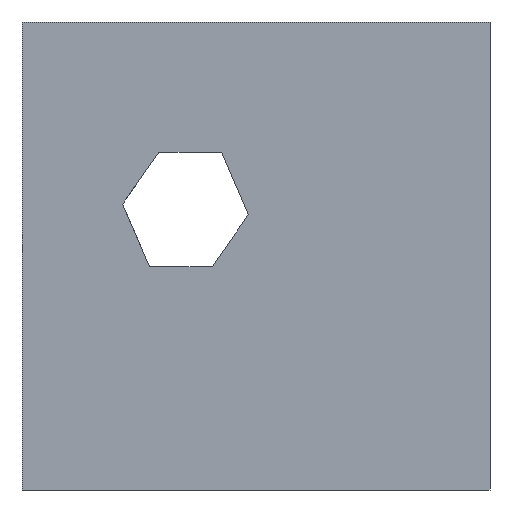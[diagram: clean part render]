
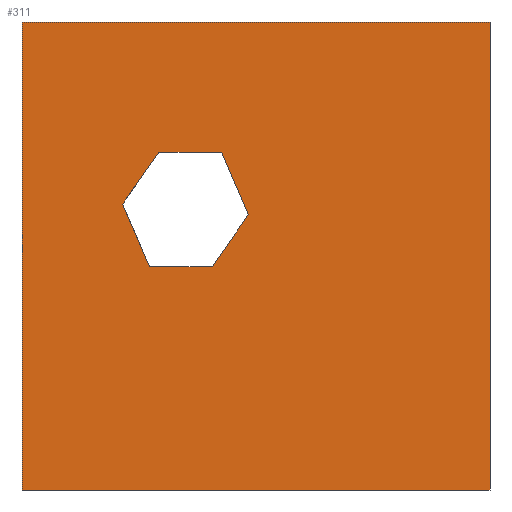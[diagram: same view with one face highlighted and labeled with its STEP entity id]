
A CAD part, front view. The second image highlights one B-rep face of the part: STEP entity #311.
In plain terms, the highlighted planar face has unit normal (0, -1, 0).
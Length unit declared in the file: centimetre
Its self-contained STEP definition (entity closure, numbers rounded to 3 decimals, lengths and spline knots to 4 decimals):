
#3 = VERTEX_POINT ( 'NONE', #155 ) ;
#6 = CARTESIAN_POINT ( 'NONE',  ( 215.0647, 0., 611.0145 ) ) ;
#8 = EDGE_CURVE ( 'NONE', #49, #16, #540, .T. ) ;
#13 = ORIENTED_EDGE ( 'NONE', *, *, #8, .T. ) ;
#16 = VERTEX_POINT ( 'NONE', #304 ) ;
#20 = VERTEX_POINT ( 'NONE', #384 ) ;
#23 = CARTESIAN_POINT ( 'NONE',  ( 215.0647, 0., 611.0145 ) ) ;
#24 = DIRECTION ( 'NONE',  ( -1., 0., 0. ) ) ;
#25 = DIRECTION ( 'NONE',  ( 0., 1., 0. ) ) ;
#32 = CARTESIAN_POINT ( 'NONE',  ( 1000., 0., 1000. ) ) ;
#37 = VECTOR ( 'NONE', #496, 100. ) ;
#49 = VERTEX_POINT ( 'NONE', #501 ) ;
#54 = EDGE_CURVE ( 'NONE', #549, #394, #98, .T. ) ;
#55 = CARTESIAN_POINT ( 'NONE',  ( 292.1432, 0., 721.6244 ) ) ;
#58 = CARTESIAN_POINT ( 'NONE',  ( 0., 0., 1000. ) ) ;
#68 = ORIENTED_EDGE ( 'NONE', *, *, #54, .F. ) ;
#71 = EDGE_CURVE ( 'NONE', #344, #49, #245, .T. ) ;
#94 = ORIENTED_EDGE ( 'NONE', *, *, #485, .T. ) ;
#98 = LINE ( 'NONE', #58, #554 ) ;
#102 = CARTESIAN_POINT ( 'NONE',  ( 0., 0., 1000. ) ) ;
#107 = VECTOR ( 'NONE', #24, 100. ) ;
#113 = CARTESIAN_POINT ( 'NONE',  ( 0., 0., 0. ) ) ;
#114 = EDGE_CURVE ( 'NONE', #226, #3, #512, .T. ) ;
#119 = DIRECTION ( 'NONE',  ( 1., 0., 0. ) ) ;
#122 = VECTOR ( 'NONE', #119, 100. ) ;
#132 = CARTESIAN_POINT ( 'NONE',  ( 0., 0., 1000. ) ) ;
#133 = CARTESIAN_POINT ( 'NONE',  ( 1000., 0., 0. ) ) ;
#154 = EDGE_CURVE ( 'NONE', #549, #446, #170, .T. ) ;
#155 = CARTESIAN_POINT ( 'NONE',  ( 406.6467, 0., 477.5105 ) ) ;
#162 = LINE ( 'NONE', #551, #403 ) ;
#170 = LINE ( 'NONE', #132, #212 ) ;
#204 = ORIENTED_EDGE ( 'NONE', *, *, #154, .T. ) ;
#212 = VECTOR ( 'NONE', #378, 100. ) ;
#219 = CARTESIAN_POINT ( 'NONE',  ( 483.7252, 0., 588.1204 ) ) ;
#226 = VERTEX_POINT ( 'NONE', #219 ) ;
#245 = LINE ( 'NONE', #6, #411 ) ;
#251 = EDGE_LOOP ( 'NONE', ( #13, #395, #499, #542, #94, #490 ) ) ;
#259 = CARTESIAN_POINT ( 'NONE',  ( 406.6467, 0., 477.5105 ) ) ;
#264 = VECTOR ( 'NONE', #533, 100. ) ;
#267 = FACE_BOUND ( 'NONE', #251, .T. ) ;
#300 = CARTESIAN_POINT ( 'NONE',  ( 1000., 0., 1000. ) ) ;
#301 = DIRECTION ( 'NONE',  ( 0.572, 0., 0.82 ) ) ;
#304 = CARTESIAN_POINT ( 'NONE',  ( 426.4735, 0., 721.6244 ) ) ;
#311 = ADVANCED_FACE ( 'NONE', ( #267, #392 ), #505, .F. ) ;
#319 = EDGE_CURVE ( 'NONE', #394, #401, #556, .T. ) ;
#328 = CARTESIAN_POINT ( 'NONE',  ( 483.7252, 0., 588.1204 ) ) ;
#344 = VERTEX_POINT ( 'NONE', #23 ) ;
#378 = DIRECTION ( 'NONE',  ( 0., 0., -1. ) ) ;
#384 = CARTESIAN_POINT ( 'NONE',  ( 272.3164, 0., 477.5105 ) ) ;
#392 = FACE_OUTER_BOUND ( 'NONE', #517, .T. ) ;
#394 = VERTEX_POINT ( 'NONE', #32 ) ;
#395 = ORIENTED_EDGE ( 'NONE', *, *, #397, .T. ) ;
#397 = EDGE_CURVE ( 'NONE', #16, #226, #416, .T. ) ;
#401 = VERTEX_POINT ( 'NONE', #133 ) ;
#402 = VECTOR ( 'NONE', #619, 100. ) ;
#403 = VECTOR ( 'NONE', #608, 100. ) ;
#411 = VECTOR ( 'NONE', #301, 100. ) ;
#416 = LINE ( 'NONE', #420, #402 ) ;
#417 = CARTESIAN_POINT ( 'NONE',  ( 0., 0., 1000. ) ) ;
#420 = CARTESIAN_POINT ( 'NONE',  ( 426.4735, 0., 721.6244 ) ) ;
#446 = VERTEX_POINT ( 'NONE', #524 ) ;
#447 = DIRECTION ( 'NONE',  ( 1., 0., 0. ) ) ;
#457 = AXIS2_PLACEMENT_3D ( 'NONE', #102, #25, #534 ) ;
#460 = LINE ( 'NONE', #259, #107 ) ;
#485 = EDGE_CURVE ( 'NONE', #20, #344, #162, .T. ) ;
#488 = VECTOR ( 'NONE', #559, 100. ) ;
#490 = ORIENTED_EDGE ( 'NONE', *, *, #71, .T. ) ;
#495 = EDGE_CURVE ( 'NONE', #446, #401, #609, .T. ) ;
#496 = DIRECTION ( 'NONE',  ( 0., 0., -1. ) ) ;
#499 = ORIENTED_EDGE ( 'NONE', *, *, #114, .T. ) ;
#501 = CARTESIAN_POINT ( 'NONE',  ( 292.1432, 0., 721.6244 ) ) ;
#505 = PLANE ( 'NONE',  #457 ) ;
#512 = LINE ( 'NONE', #328, #488 ) ;
#517 = EDGE_LOOP ( 'NONE', ( #531, #593, #68, #204 ) ) ;
#524 = CARTESIAN_POINT ( 'NONE',  ( 0., 0., 0. ) ) ;
#531 = ORIENTED_EDGE ( 'NONE', *, *, #495, .T. ) ;
#533 = DIRECTION ( 'NONE',  ( 1., 0., 0. ) ) ;
#534 = DIRECTION ( 'NONE',  ( 0., 0., 1. ) ) ;
#535 = EDGE_CURVE ( 'NONE', #3, #20, #460, .T. ) ;
#540 = LINE ( 'NONE', #55, #264 ) ;
#542 = ORIENTED_EDGE ( 'NONE', *, *, #535, .T. ) ;
#549 = VERTEX_POINT ( 'NONE', #417 ) ;
#551 = CARTESIAN_POINT ( 'NONE',  ( 272.3164, 0., 477.5105 ) ) ;
#554 = VECTOR ( 'NONE', #447, 100. ) ;
#556 = LINE ( 'NONE', #300, #37 ) ;
#559 = DIRECTION ( 'NONE',  ( -0.572, 0., -0.82 ) ) ;
#593 = ORIENTED_EDGE ( 'NONE', *, *, #319, .F. ) ;
#608 = DIRECTION ( 'NONE',  ( -0.394, 0., 0.919 ) ) ;
#609 = LINE ( 'NONE', #113, #122 ) ;
#619 = DIRECTION ( 'NONE',  ( 0.394, 0., -0.919 ) ) ;
